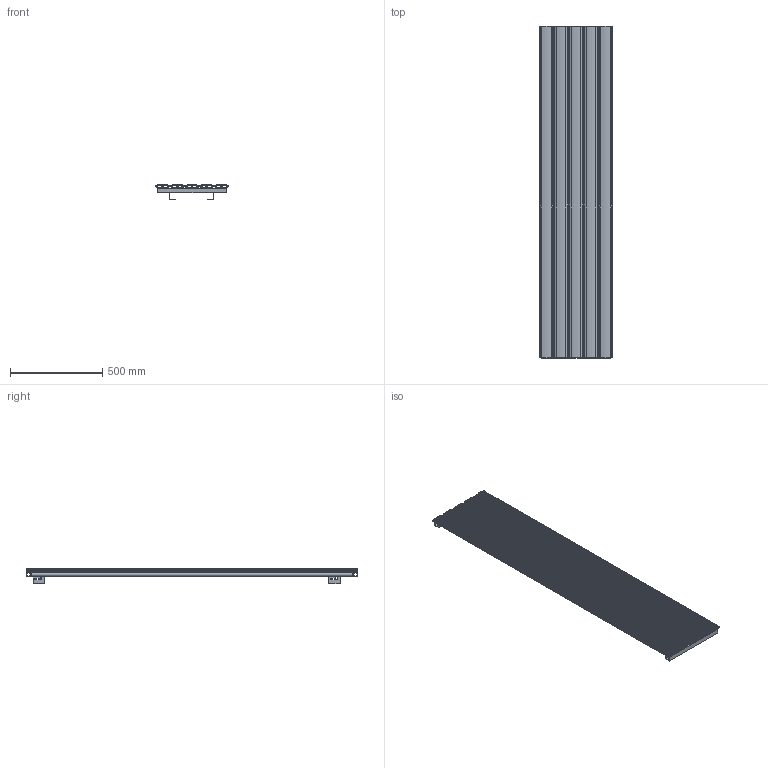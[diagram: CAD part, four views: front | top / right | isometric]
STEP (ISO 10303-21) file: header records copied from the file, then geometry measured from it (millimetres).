
FILE_DESCRIPTION (( 'STEP AP214' ), '1' );
FILE_NAME ('ELLIPTIC.STEP', '2020-06-25T10:26:03', ( 'termosan' ), ( '' ), 'SwSTEP 2.0', 'SolidWorks 2009', '' );
FILE_SCHEMA (( 'AUTOMOTIVE_DESIGN' ));
Length unit declared in the file: millimetre
Products named in the file (12): ELLIPTIC PROFÝL-1800; ELLIPTIC KAPAK; KARE KOL.-395; SAC ASKI SAﾐ; sac aský-sað_3_2; SAC ASKI SOL; sac aský-sol_3_2; YENÝ OMEGA; YENÝ OMEGA ASKI 20; SAC ASKI SAÐ VÝB.SÝZ; L SAC ASKI VÝB PLASTÝÐÝ; ELLIPTIC
Assembly tree (27 placements, depth 3):
  ELLIPTIC
    ELLIPTIC KAPAK  x10
    SAC ASKI SAÐ VÝB.SÝZ
    ELLIPTIC PROFÝL-1800  x5
    KARE KOL.-395  x2
    YENÝ OMEGA ASKI 20
    SAC ASKI SOL  x2
      YENÝ OMEGA
      sac aský-sol_3_2
    L SAC ASKI VÝB PLASTÝÐÝ
    SAC ASKI SAﾐ
      sac aský-sað_3_2
      YENÝ OMEGA
Bounding box: 395 x 1800 x 82.45 mm (x, y, z)
Volume: 3815246.3 mm3; surface area: 4847057.2 mm2
Topology: 26 solids, 26 shells, 5369 faces, 15001 edges, 9624 vertices
Faces by surface type: cylinder 2929, bspline 1210, plane 1050, cone 180
Entity records: 40383 total; most frequent: CARTESIAN_POINT 14145, ORIENTED_EDGE 5652, DIRECTION 5259, EDGE_CURVE 2826, AXIS2_PLACEMENT_3D 1937, VERTEX_POINT 1849, LINE 1385, VECTOR 1385
